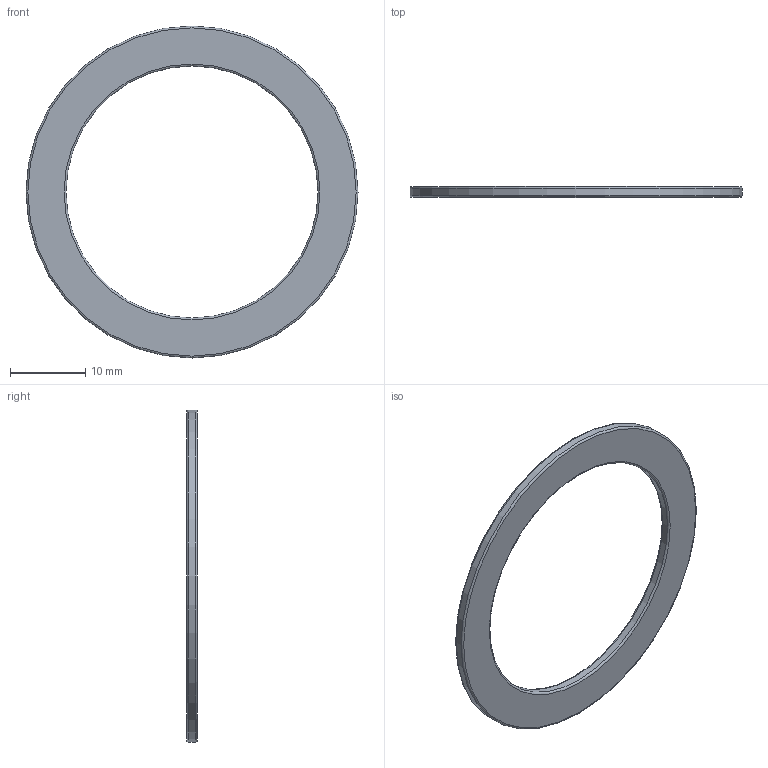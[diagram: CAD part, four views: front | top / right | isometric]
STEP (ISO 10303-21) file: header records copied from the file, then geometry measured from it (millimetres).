
FILE_DESCRIPTION(('Open CASCADE Model'),'2;1');
FILE_NAME('Open CASCADE Shape Model','2026-10-01T12:35:21',('Author'),( 'Open CASCADE'),'Open CASCADE STEP processor 7.8','Open CASCADE 7.8' ,'Unknown');
FILE_SCHEMA(('AUTOMOTIVE_DESIGN { 1 0 10303 214 1 1 1 1 }'));
Length unit declared in the file: millimetre
Products named in the file (2): P03_Face_bezel; P03_Face_bezel_solid
Assembly tree (1 placements, depth 2):
  P03_Face_bezel
    P03_Face_bezel_solid
Bounding box: 44 x 1.4 x 44 mm (x, y, z)
Volume: 895.6 mm3; surface area: 1577 mm2
Topology: 1 solids, 1 shells, 8 faces, 14 edges, 8 vertices
Faces by surface type: torus 4, cylinder 2, plane 2
Full cylindrical faces by diameter (mm): 33.4 x1, 44 x1
Entity records: 413 total; most frequent: CARTESIAN_POINT 68, DIRECTION 66, ORIENTED_EDGE 28, PCURVE 28, DEFINITIONAL_REPRESENTATION 28, AXIS2_PLACEMENT_3D 22, LINE 18, VECTOR 18
